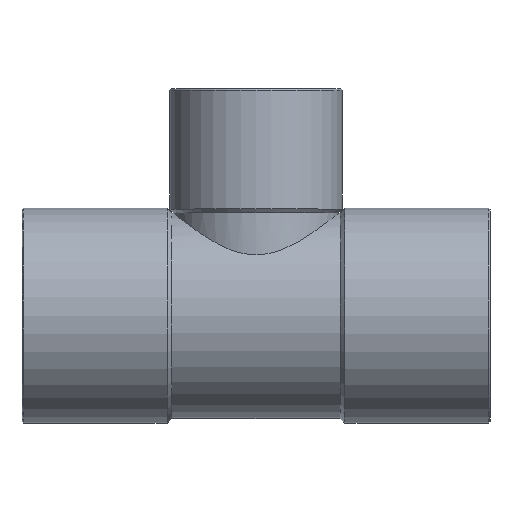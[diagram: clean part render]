
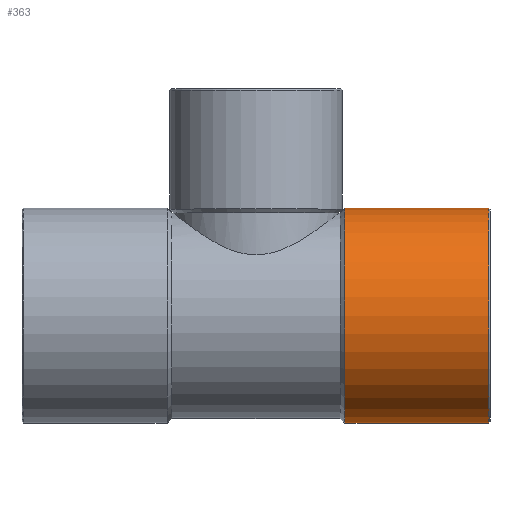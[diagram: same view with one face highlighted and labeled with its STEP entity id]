
A CAD part, top view. The second image highlights one B-rep face of the part: STEP entity #363.
In plain terms, the highlighted cylindrical face has radius 15.175 mm (diameter 30.35 mm), a partial arc.
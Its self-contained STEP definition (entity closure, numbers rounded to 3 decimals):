
#120=CARTESIAN_POINT('',(12.544,15.175,0.0));
#121=VERTEX_POINT('',#120);
#137=CARTESIAN_POINT('',(12.544,-15.175,0.));
#138=VERTEX_POINT('',#137);
#145=CARTESIAN_POINT('',(12.544,0.0,0.0));
#146=DIRECTION('',(1.0,0.0,0.0));
#147=DIRECTION('',(0.0,1.0,0.0));
#148=AXIS2_PLACEMENT_3D('',#145,#146,#147);
#149=CIRCLE('',#148,15.175);
#150=EDGE_CURVE('',#121,#138,#149,.T.);
#332=CARTESIAN_POINT('',(22.772,0.0,0.0));
#333=DIRECTION('',(1.0,0.0,0.0));
#334=DIRECTION('',(0.0,1.0,0.0));
#335=AXIS2_PLACEMENT_3D('',#332,#333,#334);
#336=CYLINDRICAL_SURFACE('',#335,15.175);
#337=CARTESIAN_POINT('',(32.8,15.175,0.));
#338=VERTEX_POINT('',#337);
#339=CARTESIAN_POINT('',(12.544,15.175,0.0));
#340=DIRECTION('',(1.0,0.0,0.0));
#341=VECTOR('',#340,20.256);
#342=LINE('',#339,#341);
#343=EDGE_CURVE('',#121,#338,#342,.T.);
#344=ORIENTED_EDGE('',*,*,#343,.F.);
#345=ORIENTED_EDGE('',*,*,#150,.T.);
#346=CARTESIAN_POINT('',(32.8,-15.175,0.));
#347=VERTEX_POINT('',#346);
#348=CARTESIAN_POINT('',(32.8,-15.175,0.));
#349=DIRECTION('',(-1.0,0.0,0.0));
#350=VECTOR('',#349,20.256);
#351=LINE('',#348,#350);
#352=EDGE_CURVE('',#347,#138,#351,.T.);
#353=ORIENTED_EDGE('',*,*,#352,.F.);
#354=CARTESIAN_POINT('',(32.8,0.0,0.0));
#355=DIRECTION('',(1.0,0.0,0.0));
#356=DIRECTION('',(0.0,-1.0,0.0));
#357=AXIS2_PLACEMENT_3D('',#354,#355,#356);
#358=CIRCLE('',#357,15.175);
#359=EDGE_CURVE('',#338,#347,#358,.T.);
#360=ORIENTED_EDGE('',*,*,#359,.F.);
#361=EDGE_LOOP('',(#344,#345,#353,#360));
#362=FACE_OUTER_BOUND('',#361,.T.);
#363=ADVANCED_FACE('',(#362),#336,.T.);
